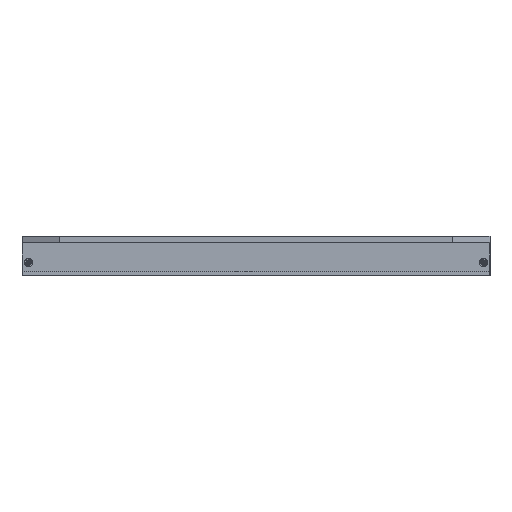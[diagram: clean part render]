
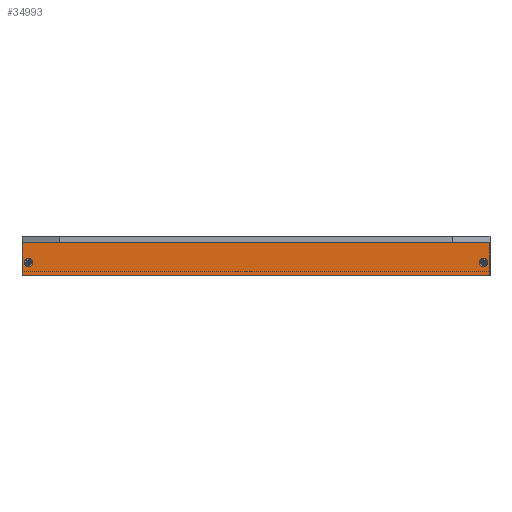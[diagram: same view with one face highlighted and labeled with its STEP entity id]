
A CAD part, front view. The second image highlights one B-rep face of the part: STEP entity #34993.
In plain terms, the highlighted planar face has unit normal (0, -1, 0).
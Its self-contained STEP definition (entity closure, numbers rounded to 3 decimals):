
#721=DIRECTION('',(-1.,0.,0.));
#722=VECTOR('',#721,212.6);
#723=CARTESIAN_POINT('',(106.3,-106.5,0.));
#724=LINE('',#723,#722);
#10436=DIRECTION('',(0.,0.,-1.));
#10437=VECTOR('',#10436,14.8);
#10438=CARTESIAN_POINT('',(106.3,-106.5,0.));
#10439=LINE('',#10438,#10437);
#10440=CARTESIAN_POINT('',(-103.5,-106.5,-9.));
#10441=DIRECTION('',(0.,1.,0.));
#10442=DIRECTION('',(0.,0.,1.));
#10443=AXIS2_PLACEMENT_3D('',#10440,#10441,#10442);
#10445=CARTESIAN_POINT('',(-103.5,-106.5,-9.));
#10446=DIRECTION('',(0.,1.,0.));
#10447=DIRECTION('',(0.,0.,-1.));
#10448=AXIS2_PLACEMENT_3D('',#10445,#10446,#10447);
#10450=CARTESIAN_POINT('',(103.5,-106.5,-9.));
#10451=DIRECTION('',(0.,1.,0.));
#10452=DIRECTION('',(0.,0.,-1.));
#10453=AXIS2_PLACEMENT_3D('',#10450,#10451,#10452);
#10455=CARTESIAN_POINT('',(103.5,-106.5,-9.));
#10456=DIRECTION('',(0.,1.,0.));
#10457=DIRECTION('',(0.,0.,1.));
#10458=AXIS2_PLACEMENT_3D('',#10455,#10456,#10457);
#10460=DIRECTION('',(1.,0.,0.));
#10461=VECTOR('',#10460,212.6);
#10462=CARTESIAN_POINT('',(-106.3,-106.5,-14.8));
#10463=LINE('',#10462,#10461);
#10464=DIRECTION('',(0.,0.,-1.));
#10465=VECTOR('',#10464,14.8);
#10466=CARTESIAN_POINT('',(-106.3,-106.5,0.));
#10467=LINE('',#10466,#10465);
#16263=CARTESIAN_POINT('',(-106.3,-106.5,-14.8));
#16264=VERTEX_POINT('',#16263);
#16271=CARTESIAN_POINT('',(106.3,-106.5,-14.8));
#16272=VERTEX_POINT('',#16271);
#16273=CARTESIAN_POINT('',(103.5,-106.5,-7.));
#16274=CARTESIAN_POINT('',(103.5,-106.5,-11.));
#16275=VERTEX_POINT('',#16273);
#16276=VERTEX_POINT('',#16274);
#16277=CARTESIAN_POINT('',(-103.5,-106.5,-11.));
#16278=CARTESIAN_POINT('',(-103.5,-106.5,-7.));
#16279=VERTEX_POINT('',#16277);
#16280=VERTEX_POINT('',#16278);
#19623=CARTESIAN_POINT('',(-106.3,-106.5,0.));
#19625=VERTEX_POINT('',#19623);
#19626=CARTESIAN_POINT('',(106.3,-106.5,0.));
#19627=VERTEX_POINT('',#19626);
#34969=CARTESIAN_POINT('',(-106.5,-106.5,-15.));
#34970=DIRECTION('',(0.,-1.,0.));
#34971=DIRECTION('',(0.,0.,1.));
#34972=AXIS2_PLACEMENT_3D('',#34969,#34970,#34971);
#34973=PLANE('',#34972);
#34974=ORIENTED_EDGE('',*,*,#34964,.T.);
#34975=ORIENTED_EDGE('',*,*,#34934,.F.);
#34977=ORIENTED_EDGE('',*,*,#34976,.F.);
#34978=ORIENTED_EDGE('',*,*,#20923,.F.);
#34979=EDGE_LOOP('',(#34974,#34975,#34977,#34978));
#34980=FACE_OUTER_BOUND('',#34979,.F.);
#34982=ORIENTED_EDGE('',*,*,#34981,.F.);
#34984=ORIENTED_EDGE('',*,*,#34983,.F.);
#34985=EDGE_LOOP('',(#34982,#34984));
#34986=FACE_BOUND('',#34985,.F.);
#34988=ORIENTED_EDGE('',*,*,#34987,.F.);
#34990=ORIENTED_EDGE('',*,*,#34989,.F.);
#34991=EDGE_LOOP('',(#34988,#34990));
#34992=FACE_BOUND('',#34991,.F.);
#34993=ADVANCED_FACE('',(#34980,#34986,#34992),#34973,.T.);
#10444=CIRCLE('',#10443,2.);
#10449=CIRCLE('',#10448,2.);
#10454=CIRCLE('',#10453,2.);
#10459=CIRCLE('',#10458,2.);
#20923=EDGE_CURVE('',#19627,#19625,#724,.T.);
#34934=EDGE_CURVE('',#16264,#16272,#10463,.T.);
#34964=EDGE_CURVE('',#19627,#16272,#10439,.T.);
#34976=EDGE_CURVE('',#19625,#16264,#10467,.T.);
#34981=EDGE_CURVE('',#16276,#16275,#10454,.T.);
#34983=EDGE_CURVE('',#16275,#16276,#10459,.T.);
#34987=EDGE_CURVE('',#16280,#16279,#10444,.T.);
#34989=EDGE_CURVE('',#16279,#16280,#10449,.T.);
